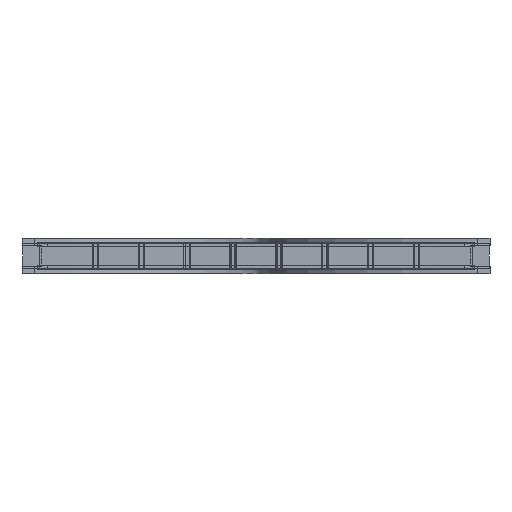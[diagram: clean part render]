
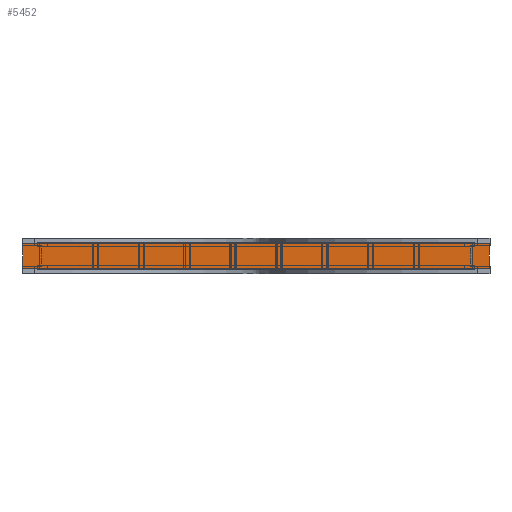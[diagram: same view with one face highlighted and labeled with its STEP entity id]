
A CAD part, front view. The second image highlights one B-rep face of the part: STEP entity #5452.
In plain terms, the highlighted planar face has unit normal (0, -1, 0) as drawn and (0, 1, 0) by its records, which use the part's own axes.
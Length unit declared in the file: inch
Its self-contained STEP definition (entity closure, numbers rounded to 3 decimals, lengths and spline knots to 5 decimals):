
#5373=DIRECTION('',(1.,0.,0.));
#5374=VECTOR('',#5373,5.875);
#5375=CARTESIAN_POINT('',(-2.9375,0.,55.955));
#5376=LINE('',#5375,#5374);
#5377=DIRECTION('',(0.,0.,1.));
#5378=VECTOR('',#5377,111.91);
#5379=CARTESIAN_POINT('',(-2.9375,0.,-55.955));
#5380=LINE('',#5379,#5378);
#5381=DIRECTION('',(-1.,0.,0.));
#5382=VECTOR('',#5381,5.875);
#5383=CARTESIAN_POINT('',(2.9375,0.,-55.955));
#5384=LINE('',#5383,#5382);
#5385=DIRECTION('',(0.,0.,-1.));
#5386=VECTOR('',#5385,111.91);
#5387=CARTESIAN_POINT('',(2.9375,0.,55.955));
#5388=LINE('',#5387,#5386);
#5421=CARTESIAN_POINT('',(-2.9375,0.,55.955));
#5422=CARTESIAN_POINT('',(2.9375,0.,55.955));
#5423=VERTEX_POINT('',#5421);
#5424=VERTEX_POINT('',#5422);
#5425=CARTESIAN_POINT('',(2.9375,0.,-55.955));
#5426=VERTEX_POINT('',#5425);
#5427=CARTESIAN_POINT('',(-2.9375,0.,-55.955));
#5428=VERTEX_POINT('',#5427);
#5437=CARTESIAN_POINT('',(0.,0.,0.));
#5438=DIRECTION('',(0.,1.,0.));
#5439=DIRECTION('',(1.,0.,0.));
#5440=AXIS2_PLACEMENT_3D('',#5437,#5438,#5439);
#5441=PLANE('',#5440);
#5443=ORIENTED_EDGE('',*,*,#5442,.F.);
#5445=ORIENTED_EDGE('',*,*,#5444,.F.);
#5447=ORIENTED_EDGE('',*,*,#5446,.F.);
#5449=ORIENTED_EDGE('',*,*,#5448,.F.);
#5450=EDGE_LOOP('',(#5443,#5445,#5447,#5449));
#5451=FACE_OUTER_BOUND('',#5450,.F.);
#5452=ADVANCED_FACE('',(#5451),#5441,.T.);
#5442=EDGE_CURVE('',#5423,#5424,#5376,.T.);
#5444=EDGE_CURVE('',#5428,#5423,#5380,.T.);
#5446=EDGE_CURVE('',#5426,#5428,#5384,.T.);
#5448=EDGE_CURVE('',#5424,#5426,#5388,.T.);
